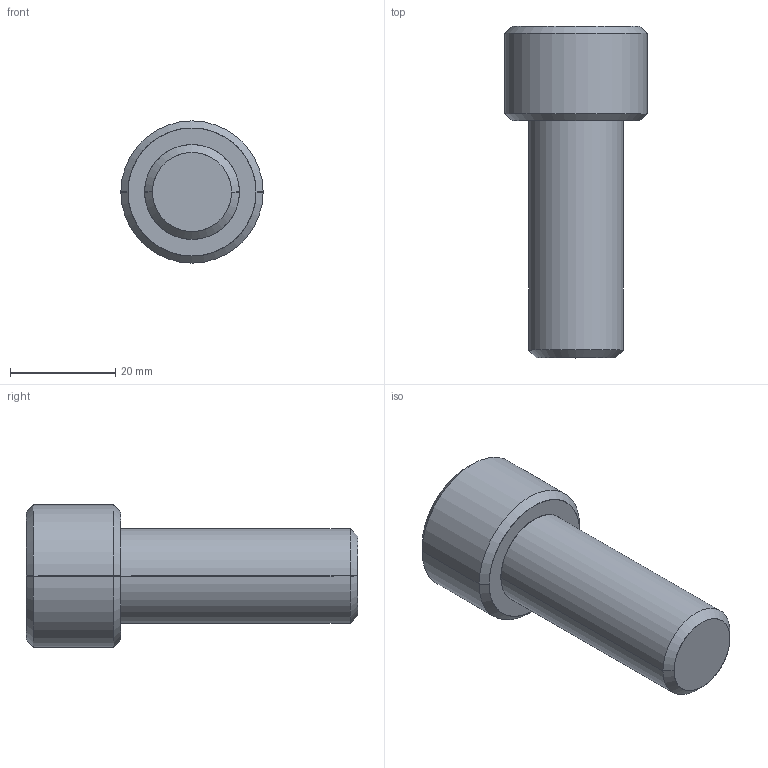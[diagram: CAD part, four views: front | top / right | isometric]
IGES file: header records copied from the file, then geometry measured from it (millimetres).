
Start section: SolidWorks IGES file using analytic representation for surfaces
Global section: file name: D:\Cleonir_arquivos\MT_15_07\Parafuso Allen Cabeça Cilindrica\CLM18045.igs; native system: SolidWorks 2013; preprocessor: SolidWorks 2013; author: Cleonir; date: 130730.130246; units: millimetre
Bounding box: 27 x 63 x 27 mm (x, y, z)
Surface area: 5591.4 mm2 (no closed solid volume)
Topology: 0 solids, 0 shells, 290 faces, 2484 edges, 2484 vertices
Faces by surface type: bspline 272, revolution 18
